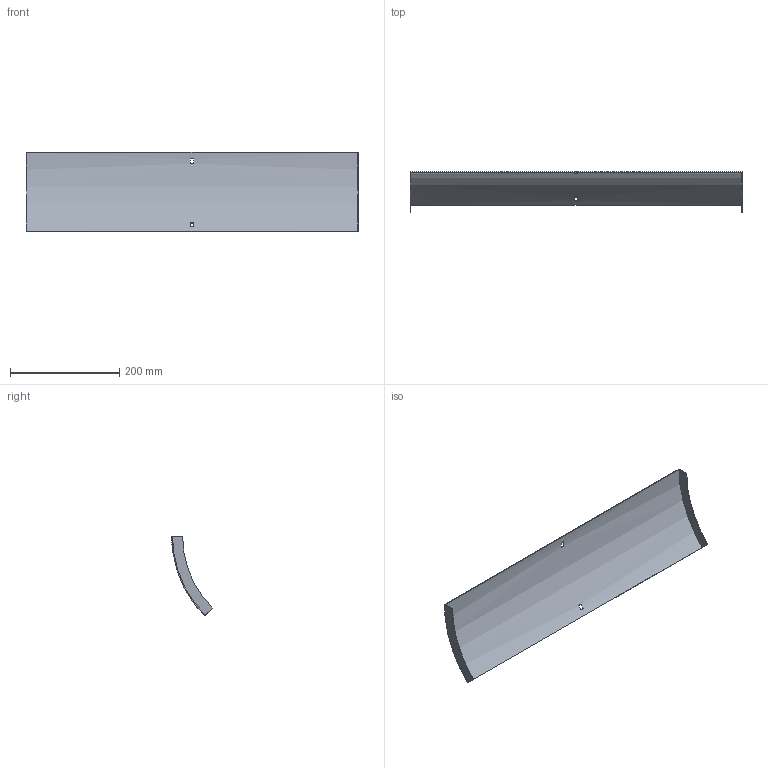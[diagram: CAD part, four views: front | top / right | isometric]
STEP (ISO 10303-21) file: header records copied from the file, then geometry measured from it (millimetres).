
FILE_DESCRIPTION (( 'STEP AP214' ), '1' );
FILE_NAME ('34N1D600.step', '2025-02-21T09:14:10', ( '' ), ( '' ), 'SwSTEP 2.0', 'SolidWorks 2023', '' );
FILE_SCHEMA (( 'AUTOMOTIVE_DESIGN' ));
Length unit declared in the file: millimetre
Products named in the file (1): 34N1D600
Bounding box: 607 x 74.33 x 145.31 mm (x, y, z)
Volume: 154730.7 mm3; surface area: 208771.8 mm2
Topology: 1 solids, 1 shells, 18 faces, 48 edges, 32 vertices
Faces by surface type: plane 14, cylinder 4
Entity records: 599 total; most frequent: DIRECTION 102, CARTESIAN_POINT 99, ORIENTED_EDGE 96, EDGE_CURVE 48, AXIS2_PLACEMENT_3D 35, VECTOR 32, VERTEX_POINT 32, LINE 32
